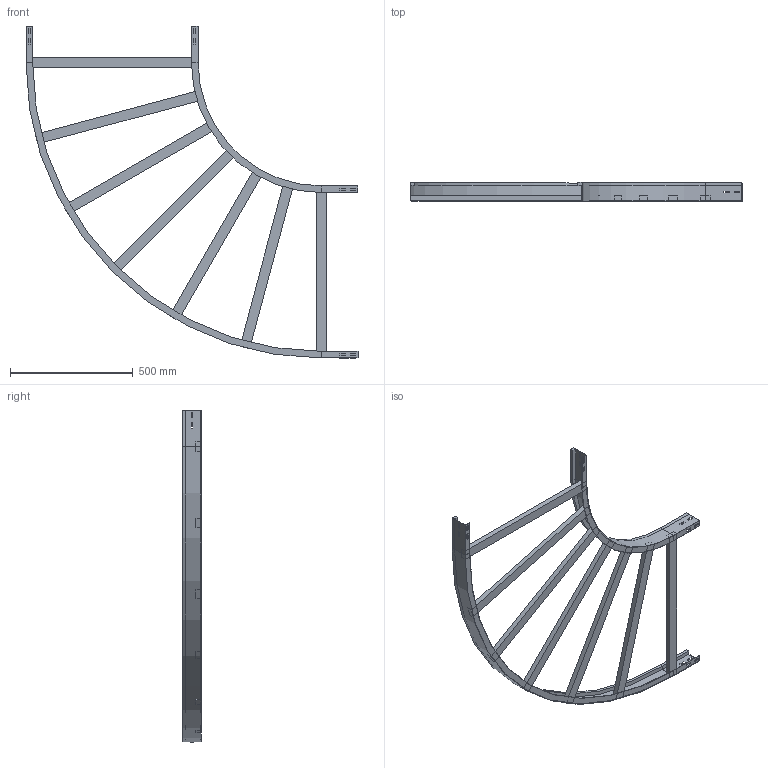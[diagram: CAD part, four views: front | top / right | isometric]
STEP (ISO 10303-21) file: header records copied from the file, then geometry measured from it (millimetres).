
FILE_DESCRIPTION (( 'STEP AP214' ), '1' );
FILE_NAME ('10B5C700.step', '2025-02-21T15:26:00', ( '' ), ( '' ), 'SwSTEP 2.0', 'SolidWorks 2023', '' );
FILE_SCHEMA (( 'AUTOMOTIVE_DESIGN' ));
Length unit declared in the file: millimetre
Products named in the file (4): A2_LONGH.ESTERNO 90°_H75_R500+700; 10B5C700; TRAVERSINO_700; A2_LONGH.INTERNO 90°_H75_R500
Assembly tree (9 placements, depth 2):
  10B5C700
    A2_LONGH.INTERNO 90°_H75_R500
    A2_LONGH.ESTERNO 90°_H75_R500+700
    TRAVERSINO_700  x7
Bounding box: 1350 x 75 x 1350 mm (x, y, z)
Volume: 5223370.7 mm3; surface area: 1371151.5 mm2
Topology: 9 solids, 9 shells, 158 faces, 388 edges, 248 vertices
Faces by surface type: plane 150, cylinder 8
Entity records: 3853 total; most frequent: CARTESIAN_POINT 650, ORIENTED_EDGE 632, DIRECTION 600, EDGE_CURVE 316, VECTOR 300, LINE 300, VERTEX_POINT 200, EDGE_LOOP 154
